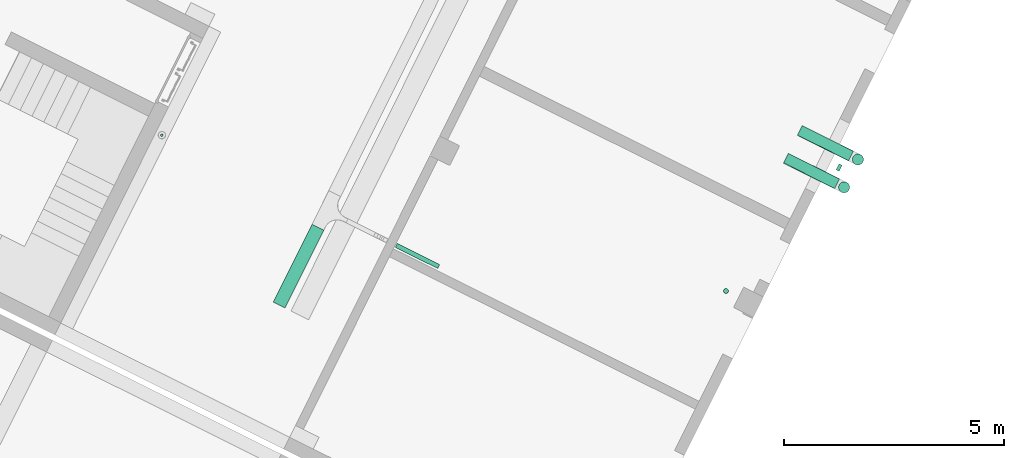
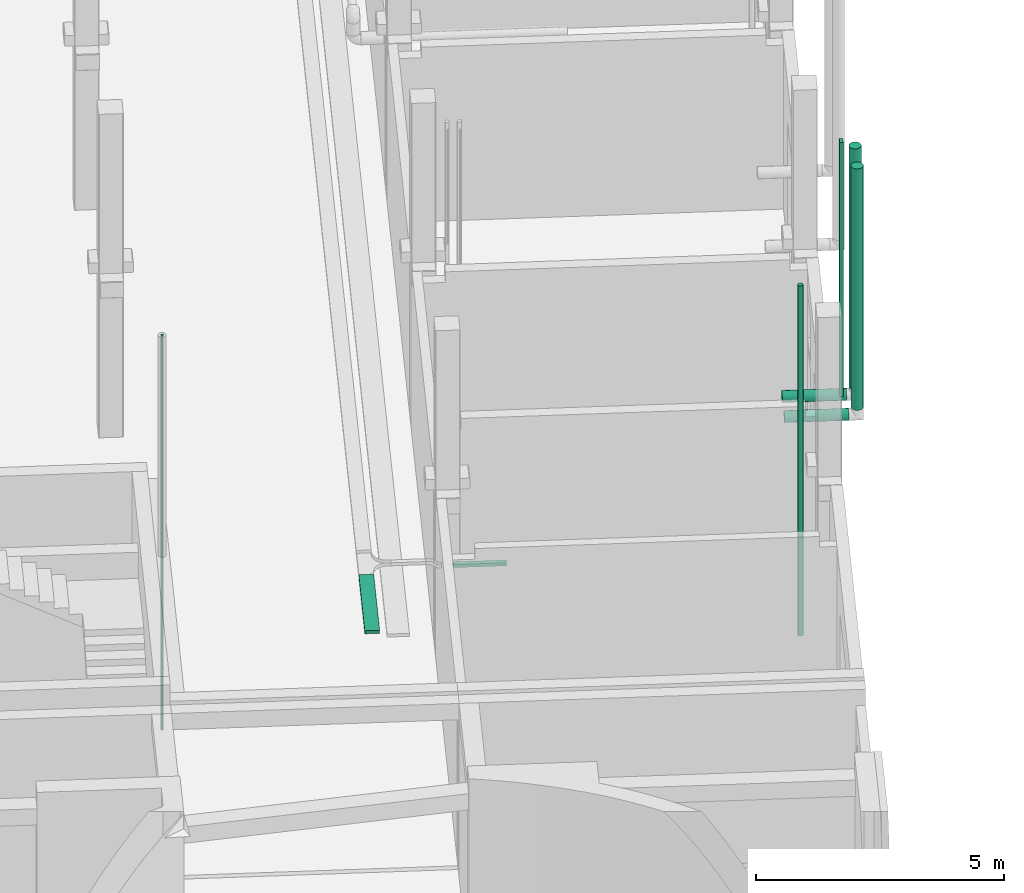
# One storey, part 58 of 91: 9 flow segments.
"""IFC2X3 building model written with IfcOpenShell, lengths in metres."""

from ifc_helpers import new_model, entity, si_unit, converted_unit, derived_unit, direction, frame, frame_2d, origin, origin_2d_with_axis, place, context, subcontext, project, spatial, rectangle, circle, extrude, type_object, element, save


model = new_model("IFC2X3")

# Units and contexts
model_context = context("Model", 3, precision=1e-05, world=origin(), true_north=direction((0.894925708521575, 0.446215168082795)))
context_of_model = context(None, 3, precision=1e-05, world=origin(), true_north=direction((0.894925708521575, 0.446215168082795)))
body_context = subcontext(model_context, "Body", "Model", "MODEL_VIEW")
ifc_project = project(units=[si_unit("LENGTHUNIT", "METRE"), si_unit("AREAUNIT", "SQUARE_METRE"), si_unit("VOLUMEUNIT", "CUBIC_METRE"), converted_unit("PLANEANGLEUNIT", "DEGREE", entity("IfcRatioMeasure", 0.0174532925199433), si_unit("PLANEANGLEUNIT", "RADIAN"), dimensions=[0, 0, 0, 0, 0, 0, 0]), si_unit("MASSUNIT", "GRAM", prefix="KILO"), si_unit("TIMEUNIT", "SECOND"), si_unit("FREQUENCYUNIT", "HERTZ"), si_unit("THERMODYNAMICTEMPERATUREUNIT", "DEGREE_CELSIUS"), derived_unit("THERMALTRANSMITTANCEUNIT", [(si_unit("MASSUNIT", "GRAM", prefix="KILO"), 1), (si_unit("THERMODYNAMICTEMPERATUREUNIT", "KELVIN"), -1), (si_unit("TIMEUNIT", "SECOND"), -3)]), derived_unit("VOLUMETRICFLOWRATEUNIT", [(si_unit("LENGTHUNIT", "METRE"), 3), (si_unit("TIMEUNIT", "SECOND"), -1)]), si_unit("ELECTRICCURRENTUNIT", "AMPERE"), si_unit("ELECTRICVOLTAGEUNIT", "VOLT"), si_unit("POWERUNIT", "WATT"), si_unit("FORCEUNIT", "NEWTON", prefix="KILO"), si_unit("ILLUMINANCEUNIT", "LUX"), si_unit("LUMINOUSFLUXUNIT", "LUMEN"), si_unit("LUMINOUSINTENSITYUNIT", "CANDELA"), si_unit("PRESSUREUNIT", "PASCAL")], contexts=[model_context, context_of_model])

# Site, building, storey
site_placement = place(None, frame((218.228324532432, 584.720189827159, 0.0), z_axis=(0.0, 0.0, 1.0), x_axis=(0.446215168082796, 0.894925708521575, 0.0)))
site = spatial("IfcSite", under=ifc_project, at=site_placement, Name="Default", CompositionType="ELEMENT")
building_placement = place(site_placement, origin())
building = spatial("IfcBuilding", under=site, at=building_placement, CompositionType="ELEMENT")
storey_placement = place(building_placement, origin())
storey = spatial("IfcBuildingStorey", under=building, at=storey_placement, Name="0 - Piano Terra", CompositionType="ELEMENT", Elevation=0.0)

# Flow segments
duct_segment_type = type_object("IfcDuctSegmentType", Name="Condotto circolare:Canna fumaria", PredefinedType="NOTDEFINED")
flow_segment_1_placement = place(storey_placement, frame((-48.9635615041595, -13.8552177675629, 3.22529765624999)))
element("IfcFlowSegment", 1, at=flow_segment_1_placement, inside=storey, type_object=duct_segment_type, Name="Condotto circolare:Canna fumaria", ObjectType="Condotto circolare:Canna fumaria", context=body_context, shape_type="SweptSolid", body=[
    extrude(circle(Radius=0.125, at=frame_2d((2.9708628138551e-29, -1.08286712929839e-14), x_axis=(1.0, 0.0))), frame((0.126595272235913, 0.126595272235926, 0.0), z_axis=(0.0, 0.0, 1.0), x_axis=(-1.0, 0.0, 0.0)), (0.0, 0.0, 1.0), 5.93440468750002),
])
flow_segment_2_placement = place(storey_placement, frame((-49.6682904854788, -13.8552177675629, 3.22529765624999)))
element("IfcFlowSegment", 2, at=flow_segment_2_placement, inside=storey, type_object=duct_segment_type, Name="Condotto circolare:Canna fumaria", ObjectType="Condotto circolare:Canna fumaria", context=body_context, shape_type="SweptSolid", body=[
    extrude(circle(Radius=0.125, at=frame_2d((5.94172562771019e-30, -2.16573425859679e-15), x_axis=(1.0, 0.0))), frame((0.126595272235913, 0.126595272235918, 0.0)), (0.0, 0.0, 1.0), 5.93440468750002),
])
for number, where, name in (
    (3, (-48.9635615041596, -13.553324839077, 2.92340472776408), "Condotto circolare:Canna fumaria"),
    (4, (-49.6682904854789, -13.553324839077, 2.92340472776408), "Condotto circolare:Canna fumaria"),
):
    element("IfcFlowSegment", number, at=place(storey_placement, frame(where)), inside=storey, type_object=duct_segment_type, Name=name, ObjectType="Condotto circolare:Canna fumaria", context=body_context, shape_type="SweptSolid", body=[
        extrude(circle(Radius=0.125, at=origin_2d_with_axis()), frame((0.126595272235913, 0.0, 0.126595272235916), z_axis=(0.0, 1.0, 0.0), x_axis=(1.0, 0.0, 0.0)), (0.0, 0.0, 1.0), 1.3),
    ])
pipe_segment_type_1 = type_object("IfcPipeSegmentType", Name="Tubazione:Pluviale-Tubazione", PredefinedType="NOTDEFINED")
flow_segment_3_placement = place(storey_placement, frame((-52.9025066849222, -12.4398242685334, 0.0)))
element("IfcFlowSegment", 5, at=flow_segment_3_placement, inside=storey, type_object=pipe_segment_type_1, Name="Tubazione:Pluviale-Tubazione", ObjectType="Tubazione:Pluviale-Tubazione", context=body_context, shape_type="SweptSolid", body=[
    extrude(circle(Radius=0.05715, at=origin_2d_with_axis()), frame((0.0587452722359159, 0.0587452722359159, 0.0)), (0.0, 0.0, 1.0), 8.6),
])
cable_carrier_segment_type = type_object("IfcCableCarrierSegmentType", Name="Passerella con raccordi:Passerella canale", PredefinedType="NOTDEFINED")
flow_segment_4_placement = place(storey_placement, frame((-55.3037571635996, -6.30406301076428, 3.6625)))
element("IfcFlowSegment", 6, at=flow_segment_4_placement, inside=storey, type_object=cable_carrier_segment_type, Name="Passerella con raccordi:Passerella canale", ObjectType="Passerella con raccordi:Passerella canale", context=body_context, shape_type="SweptSolid", body=[
    extrude(rectangle(XDim=1.08, YDim=0.0999999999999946, at=frame_2d((5.55111512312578e-16, 8.65973959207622e-15), x_axis=(1.0, 0.0))), frame((0.050000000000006, 0.540000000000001, 0.0), z_axis=(0.0, 0.0, 1.0), x_axis=(0.0, 1.0, 0.0)), (0.0, 0.0, 1.0), 0.0750000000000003),
])
flow_segment_5_placement = place(storey_placement, frame((-57.6537571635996, -3.60107899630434, 3.76249999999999)))
element("IfcFlowSegment", 7, at=flow_segment_5_placement, inside=storey, type_object=cable_carrier_segment_type, Name="Passerella con raccordi:Passerella canale", ObjectType="Passerella con raccordi:Passerella canale", context=body_context, shape_type="SweptSolid", body=[
    extrude(rectangle(XDim=1.97499999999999, YDim=0.3, at=frame_2d((4.32986979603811e-15, -2.63677968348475e-16), x_axis=(1.0, 0.0))), frame((0.987499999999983, 0.150000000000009, 0.0)), (0.0, 0.0, 1.0), 0.0750000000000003),
])
flow_segment_6_placement = place(storey_placement, frame((-49.2666952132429, -13.4660789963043, 3.305)))
element("IfcFlowSegment", 8, at=flow_segment_6_placement, inside=storey, type_object=cable_carrier_segment_type, Name="Passerella con raccordi:Passerella canale", ObjectType="Passerella con raccordi:Passerella canale", context=body_context, shape_type="SweptSolid", body=[
    extrude(rectangle(XDim=0.0750000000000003, YDim=0.150000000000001, at=origin_2d_with_axis()), frame((0.0750000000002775, 0.0375000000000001, 0.0), z_axis=(0.0, 0.0, 1.0), x_axis=(0.0, -1.0, 0.0)), (0.0, 0.0, 1.0), 6.2325),
])
pipe_segment_type_2 = type_object("IfcPipeSegmentType", Name="Tubazione:Antincendio-Tubazione", PredefinedType="NOTDEFINED")
flow_segment_7_placement = place(storey_placement, frame((-55.4212070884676, 0.617163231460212, 0.0)))
element("IfcFlowSegment", 9, at=flow_segment_7_placement, inside=storey, type_object=pipe_segment_type_2, Name="Tubazione:Antincendio-Tubazione", ObjectType="Tubazione:Antincendio-Tubazione", context=body_context, shape_type="SweptSolid", body=[
    extrude(circle(Radius=0.0301625, at=origin_2d_with_axis()), frame((0.0317577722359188, 0.0317577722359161, 0.0)), (0.0, 0.0, 1.0), 9.69999999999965),
])

save(model, "model.ifc")
